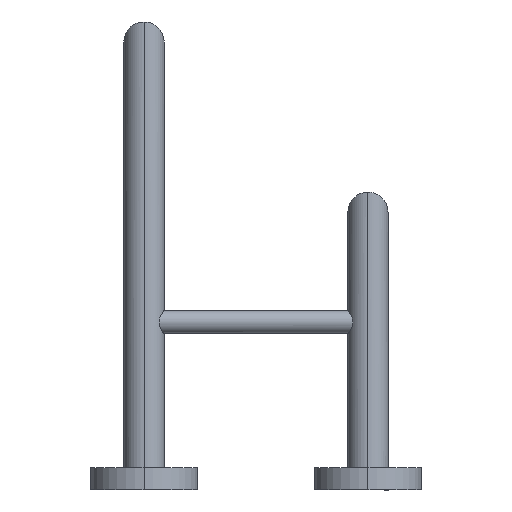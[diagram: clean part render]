
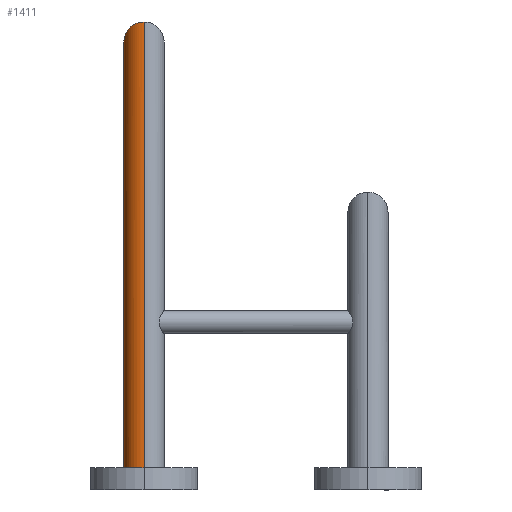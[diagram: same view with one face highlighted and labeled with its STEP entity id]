
A CAD part, left-side view. The second image highlights one B-rep face of the part: STEP entity #1411.
In plain terms, the highlighted cylindrical face has radius 9 mm (diameter 18 mm), a partial arc.
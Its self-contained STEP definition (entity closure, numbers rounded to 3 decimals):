
#1345 = VERTEX_POINT('',#1346);
#1346 = CARTESIAN_POINT('',(-266.,100.,
    0.));
#1347 = VERTEX_POINT('',#1348);
#1348 = CARTESIAN_POINT('',(-284.,100.,0.));
#1355 = EDGE_CURVE('',#1347,#1345,#1356,.T.);
#1356 = CIRCLE('',#1357,9.);
#1357 = AXIS2_PLACEMENT_3D('',#1358,#1359,#1360);
#1358 = CARTESIAN_POINT('',(-275.,100.,0.));
#1359 = DIRECTION('',(0.,0.,-1.));
#1360 = DIRECTION('',(-1.,0.,0.));
#1371 = EDGE_CURVE('',#1345,#1372,#1374,.T.);
#1372 = VERTEX_POINT('',#1373);
#1373 = CARTESIAN_POINT('',(-266.,100.,
    191.));
#1374 = LINE('',#1375,#1376);
#1375 = CARTESIAN_POINT('',(-266.,100.,
    0.));
#1376 = VECTOR('',#1377,1.);
#1377 = DIRECTION('',(0.,0.,1.));
#1389 = VERTEX_POINT('',#1390);
#1390 = CARTESIAN_POINT('',(-284.,100.,209.));
#1397 = EDGE_CURVE('',#1389,#1347,#1398,.T.);
#1398 = LINE('',#1399,#1400);
#1399 = CARTESIAN_POINT('',(-284.,100.,0.));
#1400 = VECTOR('',#1401,1.);
#1401 = DIRECTION('',(0.,0.,-1.));
#1411 = ADVANCED_FACE('',(#1412),#1433,.T.);
#1412 = FACE_BOUND('',#1413,.T.);
#1413 = EDGE_LOOP('',(#1414,#1415,#1416,#1425,#1432));
#1414 = ORIENTED_EDGE('',*,*,#1355,.F.);
#1415 = ORIENTED_EDGE('',*,*,#1397,.F.);
#1416 = ORIENTED_EDGE('',*,*,#1417,.T.);
#1417 = EDGE_CURVE('',#1389,#1418,#1420,.T.);
#1418 = VERTEX_POINT('',#1419);
#1419 = CARTESIAN_POINT('',(-275.,109.,200.));
#1420 = ELLIPSE('',#1421,12.728,9.);
#1421 = AXIS2_PLACEMENT_3D('',#1422,#1423,#1424);
#1422 = CARTESIAN_POINT('',(-275.,100.,200.));
#1423 = DIRECTION('',(-0.707,0.,-0.707
    ));
#1424 = DIRECTION('',(-0.707,0.,0.707
    ));
#1425 = ORIENTED_EDGE('',*,*,#1426,.T.);
#1426 = EDGE_CURVE('',#1418,#1372,#1427,.T.);
#1427 = ELLIPSE('',#1428,12.728,9.);
#1428 = AXIS2_PLACEMENT_3D('',#1429,#1430,#1431);
#1429 = CARTESIAN_POINT('',(-275.,100.,200.));
#1430 = DIRECTION('',(-0.707,0.,-0.707
    ));
#1431 = DIRECTION('',(-0.707,0.,0.707
    ));
#1432 = ORIENTED_EDGE('',*,*,#1371,.F.);
#1433 = CYLINDRICAL_SURFACE('',#1434,9.);
#1434 = AXIS2_PLACEMENT_3D('',#1435,#1436,#1437);
#1435 = CARTESIAN_POINT('',(-275.,100.,0.));
#1436 = DIRECTION('',(0.,0.,-1.));
#1437 = DIRECTION('',(-1.,0.,0.));
